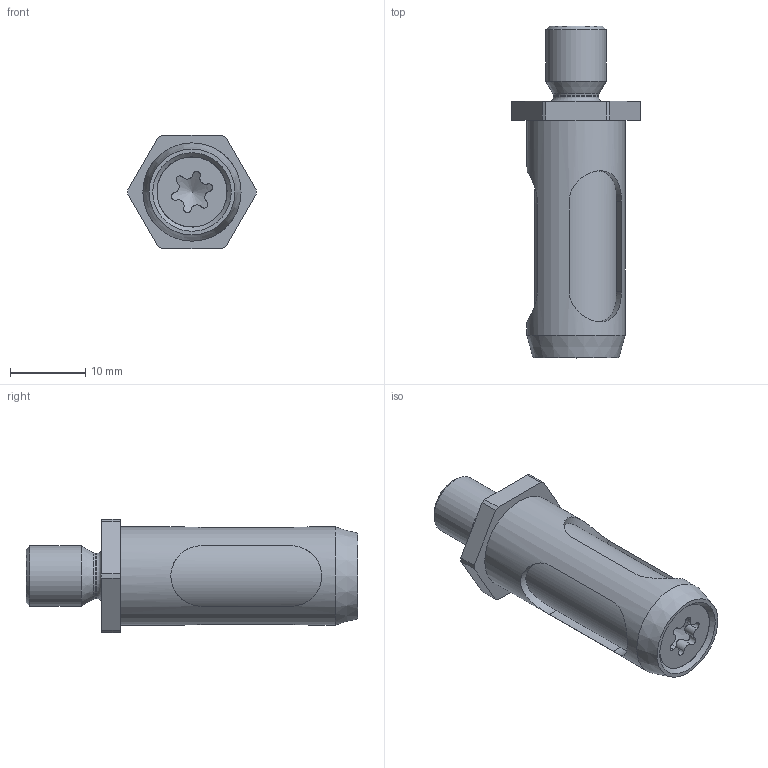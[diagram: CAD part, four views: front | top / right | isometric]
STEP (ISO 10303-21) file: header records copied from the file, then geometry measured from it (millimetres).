
FILE_DESCRIPTION(/* description */ (''),/* implementation_level */ '2;1');
FILE_NAME(/* name */ '\\dc01\daten\CAD\Standard\Daten\3D-Datenbank\GI\GIS\4 - 3D-CAD-Daten GIS 004-020\G-GIS013\G-GIS013_Rev.1.02.stp',/* time_stamp */ '2022-11-29T15:57:07+01:00',/* author */ ('ysplieth'),/* organization */ (''),/* preprocessor_version */ 'ST-DEVELOPER v17',/* originating_system */ 'Autodesk Inventor 2018',/* authorisation */ '');
FILE_SCHEMA (('AUTOMOTIVE_DESIGN { 1 0 10303 214 3 1 1 }'));
Length unit declared in the file: millimetre
Products named in the file (1): Bauteil13
Bounding box: 17 x 44 x 15 mm (x, y, z)
Volume: 3971.2 mm3; surface area: 4148.8 mm2
Topology: 1 solids, 4 shells, 78 faces, 216 edges, 149 vertices
Faces by surface type: cylinder 41, plane 23, cone 11, torus 3
Full cylindrical faces by diameter (mm): 4 x2, 4.134 x2, 5 x1, 5.5 x1, 6 x1, 8 x1, 8.8 x1, 9 x1, 9.3 x1, 11 x2, 13 x1
Entity records: 3186 total; most frequent: CARTESIAN_POINT 1038, ORIENTED_EDGE 426, DIRECTION 422, EDGE_CURVE 213, AXIS2_PLACEMENT_3D 167, VERTEX_POINT 149, EDGE_LOOP 92, LINE 88
